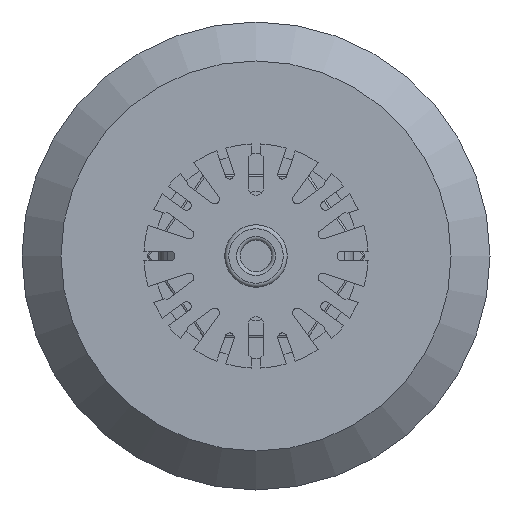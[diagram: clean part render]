
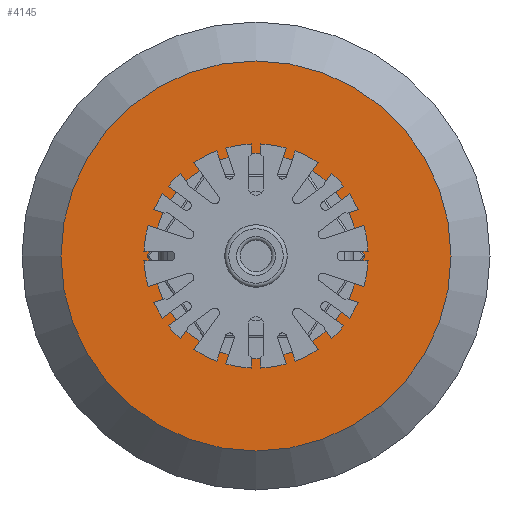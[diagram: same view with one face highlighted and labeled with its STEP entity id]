
A CAD part, front view. The second image highlights one B-rep face of the part: STEP entity #4145.
In plain terms, the highlighted planar face has unit normal (0, -1, 0).
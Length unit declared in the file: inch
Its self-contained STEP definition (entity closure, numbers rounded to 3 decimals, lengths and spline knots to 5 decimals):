
#863=FACE_BOUND('',#1106,.T.);
#878=FACE_OUTER_BOUND('',#1105,.T.);
#1105=EDGE_LOOP('',(#2594,#2595));
#1106=EDGE_LOOP('',(#2596,#2597));
#1346=CIRCLE('',#4440,1.25);
#1347=CIRCLE('',#4441,1.25);
#1348=CIRCLE('',#4443,0.6575);
#1349=CIRCLE('',#4444,0.6575);
#1577=VERTEX_POINT('',#6166);
#1578=VERTEX_POINT('',#6167);
#1579=VERTEX_POINT('',#6172);
#1580=VERTEX_POINT('',#6173);
#1975=EDGE_CURVE('',#1577,#1578,#1346,.T.);
#1976=EDGE_CURVE('',#1578,#1577,#1347,.T.);
#1978=EDGE_CURVE('',#1579,#1580,#1348,.T.);
#1979=EDGE_CURVE('',#1580,#1579,#1349,.T.);
#2594=ORIENTED_EDGE('',*,*,#1975,.T.);
#2595=ORIENTED_EDGE('',*,*,#1976,.T.);
#2596=ORIENTED_EDGE('',*,*,#1978,.F.);
#2597=ORIENTED_EDGE('',*,*,#1979,.F.);
#3810=PLANE('',#4442);
#4145=ADVANCED_FACE('',(#878,#863),#3810,.T.);
#4440=AXIS2_PLACEMENT_3D('',#6168,#4910,#4911);
#4441=AXIS2_PLACEMENT_3D('',#6169,#4912,#4913);
#4442=AXIS2_PLACEMENT_3D('',#6171,#4915,#4916);
#4443=AXIS2_PLACEMENT_3D('',#6174,#4917,#4918);
#4444=AXIS2_PLACEMENT_3D('',#6175,#4919,#4920);
#4910=DIRECTION('center_axis',(0.,-1.,0.));
#4911=DIRECTION('ref_axis',(1.,0.,0.));
#4912=DIRECTION('center_axis',(0.,-1.,0.));
#4913=DIRECTION('ref_axis',(1.,0.,0.));
#4915=DIRECTION('center_axis',(0.,-1.,0.));
#4916=DIRECTION('ref_axis',(-1.,0.,0.));
#4917=DIRECTION('center_axis',(0.,-1.,0.));
#4918=DIRECTION('ref_axis',(-1.,0.,0.));
#4919=DIRECTION('center_axis',(0.,-1.,0.));
#4920=DIRECTION('ref_axis',(-1.,0.,0.));
#6166=CARTESIAN_POINT('',(-1.25,1.75,0.));
#6167=CARTESIAN_POINT('',(1.25,1.75,0.));
#6168=CARTESIAN_POINT('Origin',(0.,1.75,0.));
#6169=CARTESIAN_POINT('Origin',(0.,1.75,0.));
#6171=CARTESIAN_POINT('Origin',(-0.6575,1.75,0.));
#6172=CARTESIAN_POINT('',(-0.6575,1.75,0.));
#6173=CARTESIAN_POINT('',(0.6575,1.75,0.));
#6174=CARTESIAN_POINT('Origin',(0.,1.75,0.));
#6175=CARTESIAN_POINT('Origin',(0.,1.75,0.));
